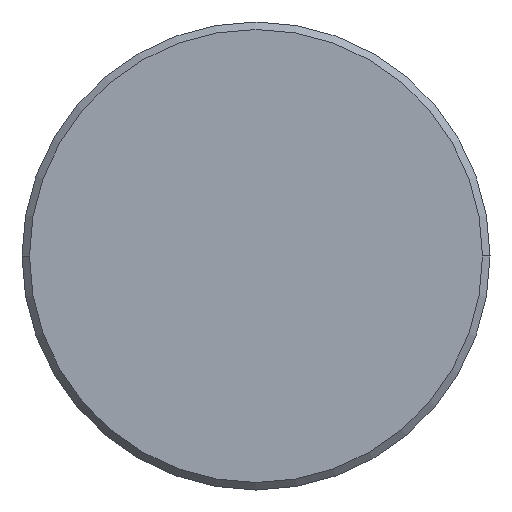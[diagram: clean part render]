
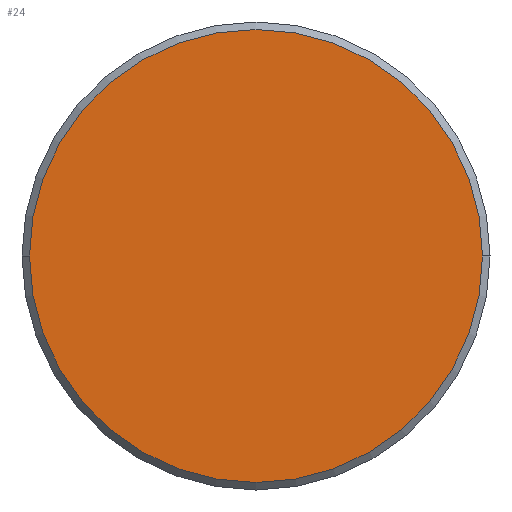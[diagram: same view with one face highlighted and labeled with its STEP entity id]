
A CAD part, left-side view. The second image highlights one B-rep face of the part: STEP entity #24.
In plain terms, the highlighted planar face has unit normal (-1, 0, 0).
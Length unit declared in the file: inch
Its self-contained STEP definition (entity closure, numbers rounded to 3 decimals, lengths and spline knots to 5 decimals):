
#17 = CIRCLE ( 'NONE', #315, 0.121 ) ;
#24 = ADVANCED_FACE ( 'NONE', ( #118 ), #260, .T. ) ;
#28 = ORIENTED_EDGE ( 'NONE', *, *, #320, .T. ) ;
#52 = AXIS2_PLACEMENT_3D ( 'NONE', #62, #63, #117 ) ;
#62 = CARTESIAN_POINT ( 'NONE',  ( 0., 0., 0. ) ) ;
#63 = DIRECTION ( 'NONE',  ( -1., 0., 0. ) ) ;
#99 = AXIS2_PLACEMENT_3D ( 'NONE', #298, #295, #226 ) ;
#103 = CIRCLE ( 'NONE', #52, 0.121 ) ;
#104 = DIRECTION ( 'NONE',  ( 0., -1., 0. ) ) ;
#117 = DIRECTION ( 'NONE',  ( 0., -1., 0. ) ) ;
#118 = FACE_OUTER_BOUND ( 'NONE', #243, .T. ) ;
#149 = VERTEX_POINT ( 'NONE', #267 ) ;
#161 = EDGE_CURVE ( 'NONE', #149, #209, #103, .T. ) ;
#166 = DIRECTION ( 'NONE',  ( -1., 0., 0. ) ) ;
#188 = ORIENTED_EDGE ( 'NONE', *, *, #161, .T. ) ;
#209 = VERTEX_POINT ( 'NONE', #210 ) ;
#210 = CARTESIAN_POINT ( 'NONE',  ( 0., -0.121, 0. ) ) ;
#226 = DIRECTION ( 'NONE',  ( 0., -1., 0. ) ) ;
#243 = EDGE_LOOP ( 'NONE', ( #188, #28 ) ) ;
#250 = CARTESIAN_POINT ( 'NONE',  ( 0., 0., 0. ) ) ;
#260 = PLANE ( 'NONE',  #99 ) ;
#267 = CARTESIAN_POINT ( 'NONE',  ( 0., 0.121, 0. ) ) ;
#295 = DIRECTION ( 'NONE',  ( -1., 0., 0. ) ) ;
#298 = CARTESIAN_POINT ( 'NONE',  ( 0., 0., 0. ) ) ;
#315 = AXIS2_PLACEMENT_3D ( 'NONE', #250, #166, #104 ) ;
#320 = EDGE_CURVE ( 'NONE', #209, #149, #17, .T. ) ;
